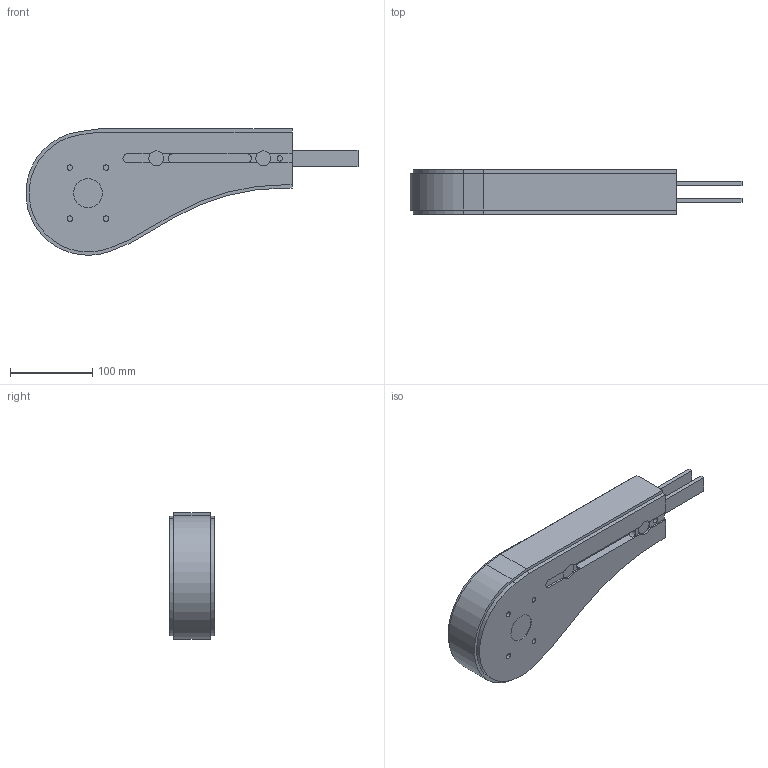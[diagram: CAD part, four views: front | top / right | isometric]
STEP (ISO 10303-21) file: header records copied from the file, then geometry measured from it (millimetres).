
FILE_DESCRIPTION(/* description */ ('Umlenkeinheit FS'),/* implementation_level */ '2;1');
FILE_NAME(/* name */ 'T:\vdz0\Step Daten Website\modulflex FS-System\Umlenkeinheiten\FSEJ 320_MA_71401.stp',/* time_stamp */ '2024-08-22T08:59:44+02:00',/* author */ ('vdz0'),/* organization */ ('modular automation GmbH'),/* preprocessor_version */ 'ST-DEVELOPER v18.1',/* originating_system */ 'Autodesk Inventor 2021',/* authorisation */ '');
FILE_SCHEMA (('CONFIG_CONTROL_DESIGN'));
Length unit declared in the file: millimetre
Products named in the file (1): FSEJ 320_MA
Bounding box: 403.28 x 54 x 153.62 mm (x, y, z)
Volume: 1844887.2 mm3; surface area: 194599.1 mm2
Topology: 2 solids, 2 shells, 98 faces, 240 edges, 160 vertices
Faces by surface type: plane 70, cylinder 28
Full cylindrical faces by diameter (mm): 6.647 x10, 18.3 x4, 35 x2
Entity records: 3052 total; most frequent: DIRECTION 510, CARTESIAN_POINT 499, ORIENTED_EDGE 480, EDGE_CURVE 240, AXIS2_PLACEMENT_3D 171, LINE 168, VECTOR 168, VERTEX_POINT 160
